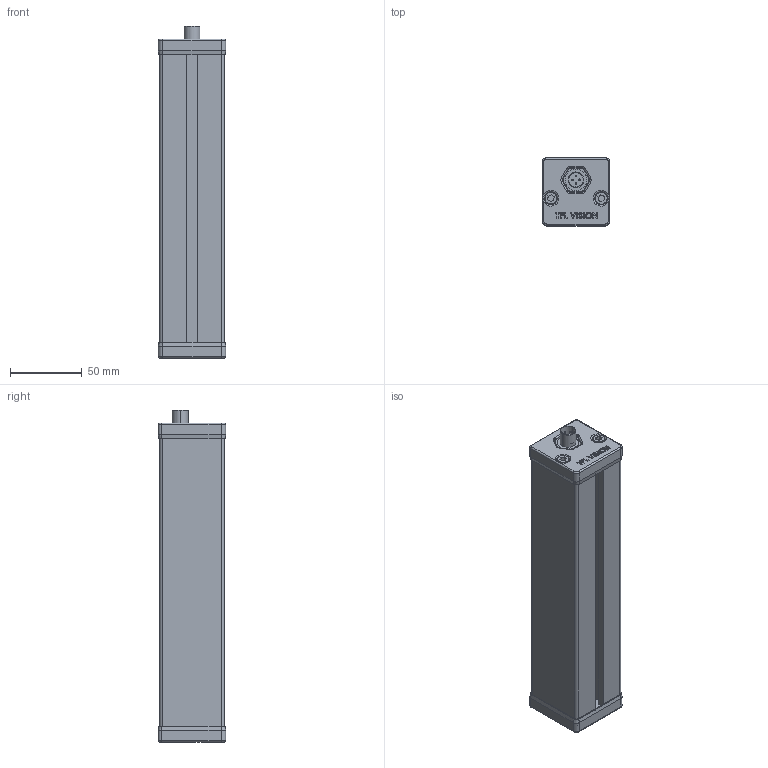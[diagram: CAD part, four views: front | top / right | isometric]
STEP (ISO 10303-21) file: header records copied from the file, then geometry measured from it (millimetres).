
FILE_DESCRIPTION (( 'STEP AP214' ), '1' );
FILE_NAME ('XBAR6.STEP', '2012-07-10T09:10:22', ( ' ' ), ( '' ), 'SwSTEP 2.0', 'SolidWorks 2009', '' );
FILE_SCHEMA (( 'AUTOMOTIVE_DESIGN' ));
Length unit declared in the file: millimetre
Products named in the file (1): XBAR6
Bounding box: 47 x 47 x 231.1 mm (x, y, z)
Volume: 129724 mm3; surface area: 130708.3 mm2
Topology: 9 solids, 9 shells, 631 faces, 1565 edges, 992 vertices
Faces by surface type: plane 300, cylinder 175, torus 62, bspline 58, cone 28, sphere 8
Entity records: 28413 total; most frequent: CARTESIAN_POINT 6647, ORIENTED_EDGE 3098, DIRECTION 2991, EDGE_CURVE 1549, AXIS2_PLACEMENT_3D 1016, VERTEX_POINT 984, LINE 959, VECTOR 959
